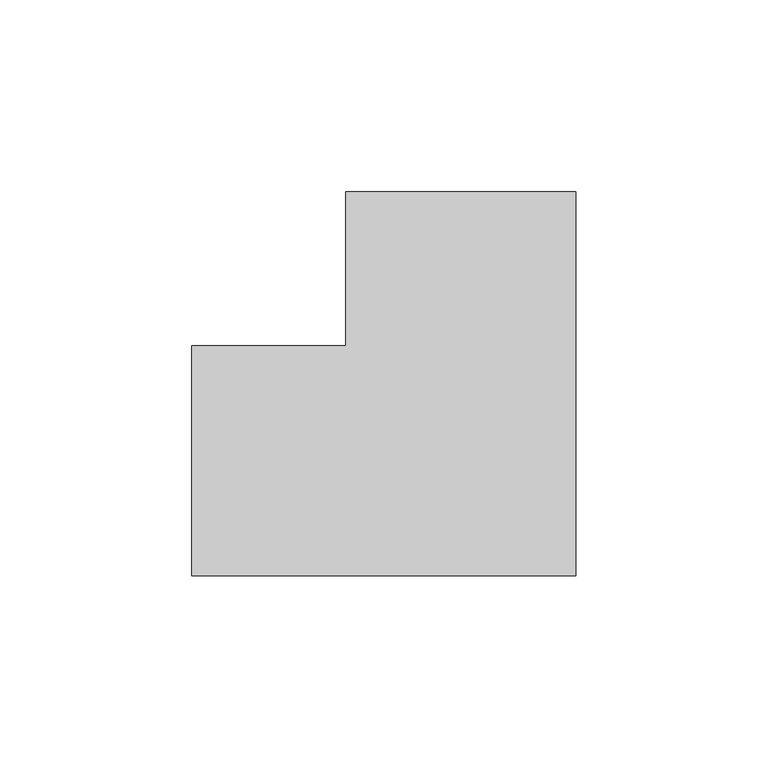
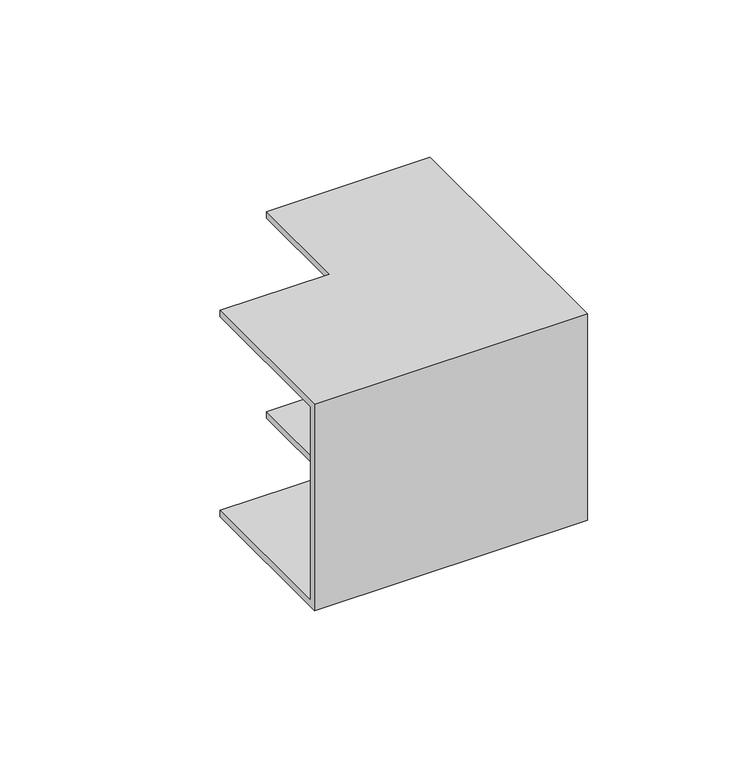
"""IFC4 building model written with IfcOpenShell, lengths in millimetres: cable carrier fitting geometry, КНС_УголВнутренний_ILC_DKC : Угол внутренний_DKC."""

from ifc_helpers import new_model, si_unit, origin, place, context, project, spatial, faceted_brep, source, transform, mapped, element, save


def cable_carrier_fitting_c60b507b(model_context):
    return source(origin(), model_context, "Body", "Brep", [
        faceted_brep([(-70.0, -30.0, 40.0), (-70.0, 30.0, 40.0), (-70.0, 30.0, 37.5), (-70.0, -27.5, 37.5), (-70.0, -27.5, -37.5), (-70.0, 30.0, -37.5), (-70.0, 30.0, -40.0), (-70.0, -30.0, -40.0), (30.0, 70.0, 40.0), (30.0, 70.0, -40.0), (-30.0, 70.0, -40.0), (-30.0, 70.0, -37.5), (27.5, 70.0, -37.5), (27.5, 70.0, 37.5), (-30.0, 70.0, 37.5), (-30.0, 70.0, 40.0), (30.0, -30.0, 40.0), (-30.0, 30.0, 40.0), (-30.0, 30.0, 37.5), (27.5, -27.5, 37.5), (27.5, -27.5, -37.5), (-30.0, 30.0, -37.5), (-30.0, 30.0, -40.0), (30.0, -30.0, -40.0)], [[[0, 1, 2, 3, 4, 5, 6, 7]], [[8, 9, 10, 11, 12, 13, 14, 15]], [[1, 0, 16, 8, 15, 17]], [[2, 1, 17, 18]], [[3, 2, 18, 14, 13, 19]], [[4, 3, 19, 20]], [[5, 4, 20, 12, 11, 21]], [[6, 5, 21, 22]], [[7, 6, 22, 10, 9, 23]], [[0, 7, 23, 16]], [[18, 17, 15, 14]], [[20, 19, 13, 12]], [[22, 21, 11, 10]], [[16, 23, 9, 8]]]),
    ])


if __name__ == "__main__":
    model = new_model("IFC4")
    model_context = context("Model", 3, world=origin())
    ifc_project = project(units=[si_unit("LENGTHUNIT", "METRE", prefix="MILLI")], contexts=[model_context])
    site = spatial("IfcSite", under=ifc_project)
    building = spatial("IfcBuilding", under=site)
    placement = place(None, origin())
    cable_carrier_fitting_shape = cable_carrier_fitting_c60b507b(model_context)
    element("IfcCableCarrierFitting", 1, ObjectType="КНС_УголВнутренний_ILC_DKC : Угол внутренний_DKC", at=placement, inside=building, context=model_context, shape_type="MappedRepresentation", body=[
        mapped(cable_carrier_fitting_shape, transform((0.0, 0.0, 0.0), x_axis=(1.0, 0.0, 0.0), y_axis=(0.0, 1.0, 0.0), z_axis=(0.0, 0.0, 1.0))),
    ])
    save(model, "model.ifc")
